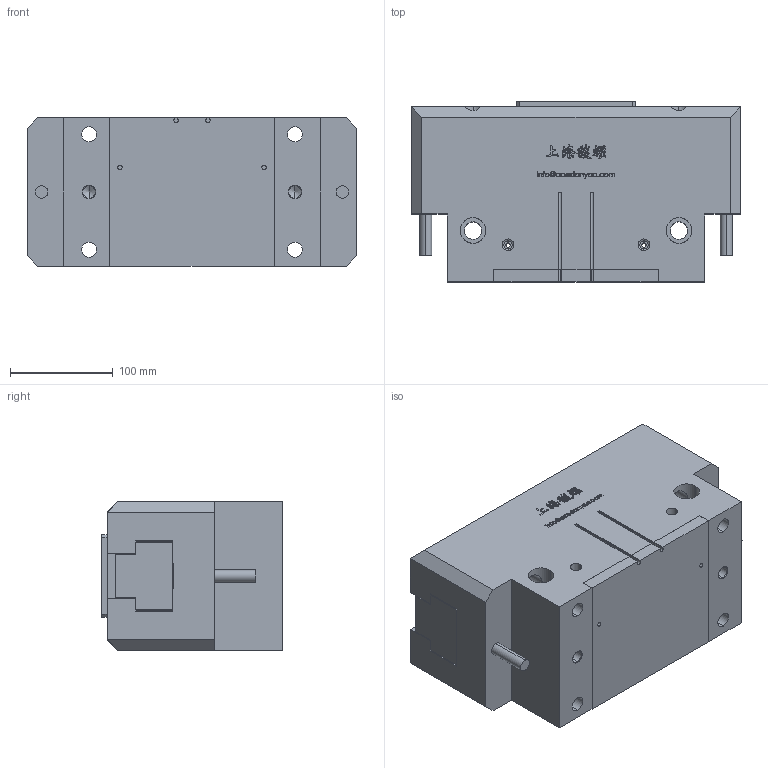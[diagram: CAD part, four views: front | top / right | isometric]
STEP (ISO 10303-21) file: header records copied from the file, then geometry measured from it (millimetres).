
FILE_DESCRIPTION (( 'STEP AP203' ), '1' );
FILE_NAME ('OPP2-320-C2-原始檔-組合-W106.04.19.STEP', '2017-04-19T07:00:03', ( 'DanyaoCAD' ), ( '' ), 'SwSTEP 2.0', 'SolidWorks 2016', '' );
FILE_SCHEMA (( 'CONFIG_CONTROL_DESIGN' ));
Length unit declared in the file: millimetre
Products named in the file (5): Corpo; Fondello; OPP2-320-C2-原始檔-組合-W106.04.19; Coperchio; Griffa
Assembly tree (5 placements, depth 2):
  OPP2-320-C2-原始檔-組合-W106.04.19
    Coperchio
    Griffa  x2
    Corpo
    Fondello
Bounding box: 320 x 175 x 144 mm (x, y, z)
Volume: 6636986.8 mm3; surface area: 518632.1 mm2
Topology: 5 solids, 5 shells, 1101 faces, 3052 edges, 1998 vertices
Faces by surface type: bspline 640, plane 293, cylinder 112, cone 56
Entity records: 51070 total; most frequent: CARTESIAN_POINT 27864, ORIENTED_EDGE 5818, EDGE_CURVE 2909, DIRECTION 2667, VERTEX_POINT 1924, LINE 1373, VECTOR 1373, B_SPLINE_CURVE_WITH_KNOTS 1304
